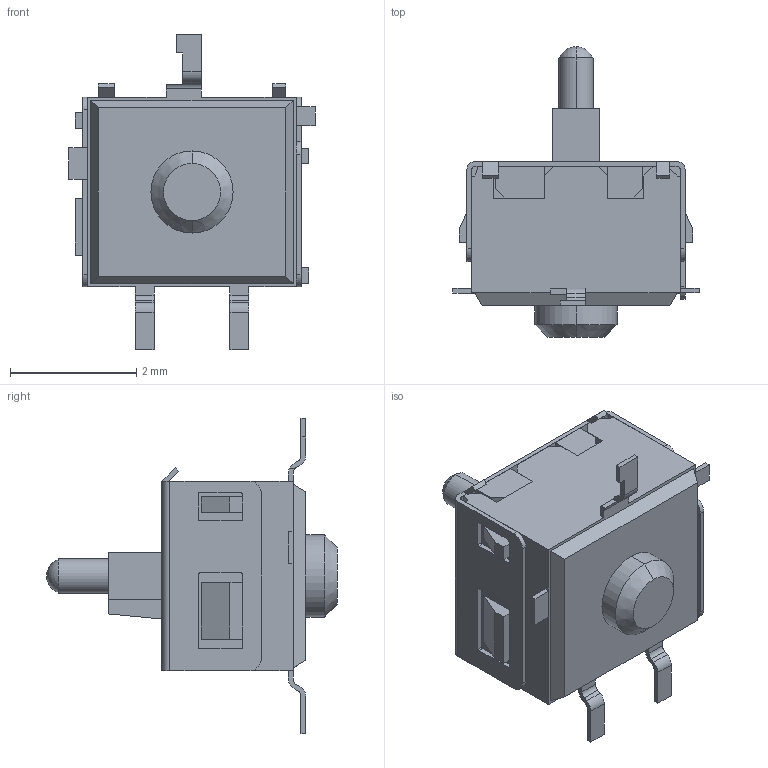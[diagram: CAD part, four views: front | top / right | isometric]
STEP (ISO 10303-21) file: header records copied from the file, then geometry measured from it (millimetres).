
FILE_DESCRIPTION (( 'STEP AP214' ), '1' );
FILE_NAME ('SPVE110801.STEP', '2012-08-03T02:37:39', ( '' ), ( '' ), 'SwSTEP 2.0', 'SolidWorks 2010', '' );
FILE_SCHEMA (( 'AUTOMOTIVE_DESIGN' ));
Length unit declared in the file: millimetre
Products named in the file (1): SPVE110801
Bounding box: 3.9 x 4.6 x 5 mm (x, y, z)
Volume: 24.4 mm3; surface area: 94.7 mm2
Topology: 5 solids, 5 shells, 228 faces, 638 edges, 421 vertices
Faces by surface type: plane 178, cylinder 46, cone 2, sphere 2
Entity records: 9040 total; most frequent: CARTESIAN_POINT 1288, ORIENTED_EDGE 1276, DIRECTION 1200, EDGE_CURVE 638, LINE 534, VECTOR 534, VERTEX_POINT 421, AXIS2_PLACEMENT_3D 333
